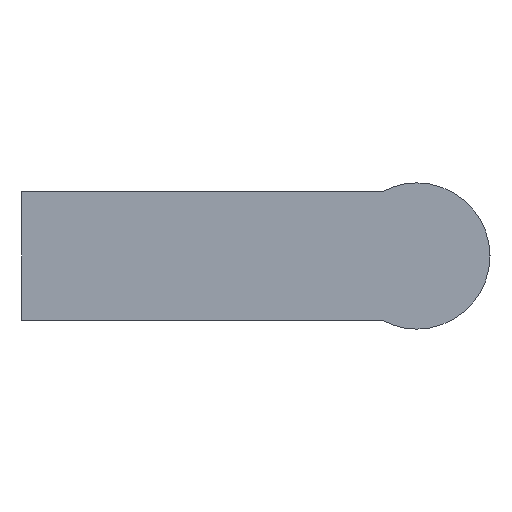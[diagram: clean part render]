
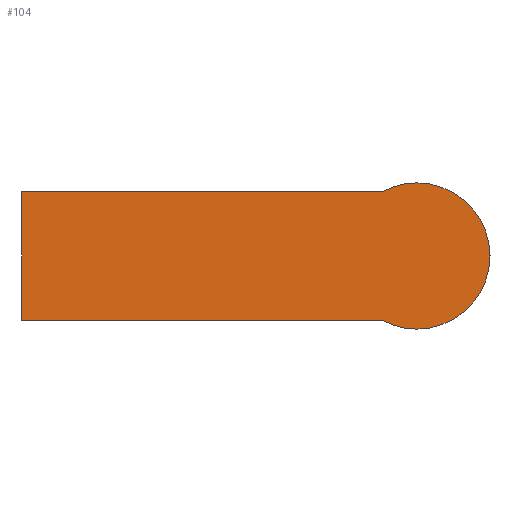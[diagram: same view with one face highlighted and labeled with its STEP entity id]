
A CAD part, left-side view. The second image highlights one B-rep face of the part: STEP entity #104.
In plain terms, the highlighted planar face has unit normal (-1, 0, 0).
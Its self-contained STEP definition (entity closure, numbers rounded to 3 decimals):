
#104 = ADVANCED_FACE( '', ( #166 ), #167, .F. );
#166 = FACE_OUTER_BOUND( '', #228, .T. );
#167 = PLANE( '', #229 );
#228 = EDGE_LOOP( '', ( #451, #452, #453, #454, #455, #456 ) );
#229 = AXIS2_PLACEMENT_3D( '', #457, #458, #459 );
#451 = ORIENTED_EDGE( '', *, *, #471, .F. );
#452 = ORIENTED_EDGE( '', *, *, #524, .F. );
#453 = ORIENTED_EDGE( '', *, *, #527, .F. );
#454 = ORIENTED_EDGE( '', *, *, #529, .F. );
#455 = ORIENTED_EDGE( '', *, *, #473, .F. );
#456 = ORIENTED_EDGE( '', *, *, #509, .F. );
#457 = CARTESIAN_POINT( '', ( -11., 0., 0. ) );
#458 = DIRECTION( '', ( 1., 0., 0. ) );
#459 = DIRECTION( '', ( 0., 0., -1. ) );
#471 = EDGE_CURVE( '', #551, #547, #553, .T. );
#473 = EDGE_CURVE( '', #554, #557, #558, .T. );
#509 = EDGE_CURVE( '', #547, #554, #615, .T. );
#524 = EDGE_CURVE( '', #634, #551, #636, .T. );
#527 = EDGE_CURVE( '', #639, #634, #641, .T. );
#529 = EDGE_CURVE( '', #557, #639, #643, .T. );
#547 = VERTEX_POINT( '', #665 );
#551 = VERTEX_POINT( '', #670 );
#553 = CIRCLE( '', #673, 5. );
#554 = VERTEX_POINT( '', #674 );
#557 = VERTEX_POINT( '', #678 );
#558 = CIRCLE( '', #679, 5. );
#615 = CIRCLE( '', #751, 5. );
#634 = VERTEX_POINT( '', #779 );
#636 = LINE( '', #782, #783 );
#639 = VERTEX_POINT( '', #787 );
#641 = LINE( '', #790, #791 );
#643 = LINE( '', #794, #795 );
#665 = CARTESIAN_POINT( '', ( -11., -27., 5. ) );
#670 = CARTESIAN_POINT( '', ( -11., -24.625, 4.4 ) );
#673 = AXIS2_PLACEMENT_3D( '', #817, #818, #819 );
#674 = CARTESIAN_POINT( '', ( -11., -27., -5. ) );
#678 = CARTESIAN_POINT( '', ( -11., -24.625, -4.4 ) );
#679 = AXIS2_PLACEMENT_3D( '', #821, #822, #823 );
#751 = AXIS2_PLACEMENT_3D( '', #899, #900, #901 );
#779 = CARTESIAN_POINT( '', ( -11., 0., 4.4 ) );
#782 = CARTESIAN_POINT( '', ( -11., 0., 4.4 ) );
#783 = VECTOR( '', #924, 1. );
#787 = CARTESIAN_POINT( '', ( -11., 0., -4.4 ) );
#790 = CARTESIAN_POINT( '', ( -11., 0., -4.4 ) );
#791 = VECTOR( '', #927, 1. );
#794 = CARTESIAN_POINT( '', ( -11., -24.625, -4.4 ) );
#795 = VECTOR( '', #929, 1. );
#817 = CARTESIAN_POINT( '', ( -11., -27., 0. ) );
#818 = DIRECTION( '', ( 1., 0., 0. ) );
#819 = DIRECTION( '', ( 0., 0., -1. ) );
#821 = CARTESIAN_POINT( '', ( -11., -27., 0. ) );
#822 = DIRECTION( '', ( 1., 0., 0. ) );
#823 = DIRECTION( '', ( 0., 0., -1. ) );
#899 = CARTESIAN_POINT( '', ( -11., -27., 0. ) );
#900 = DIRECTION( '', ( 1., 0., 0. ) );
#901 = DIRECTION( '', ( 0., 0., -1. ) );
#924 = DIRECTION( '', ( 0., -1., 0. ) );
#927 = DIRECTION( '', ( 0., 0., 1. ) );
#929 = DIRECTION( '', ( 0., 1., 0. ) );
